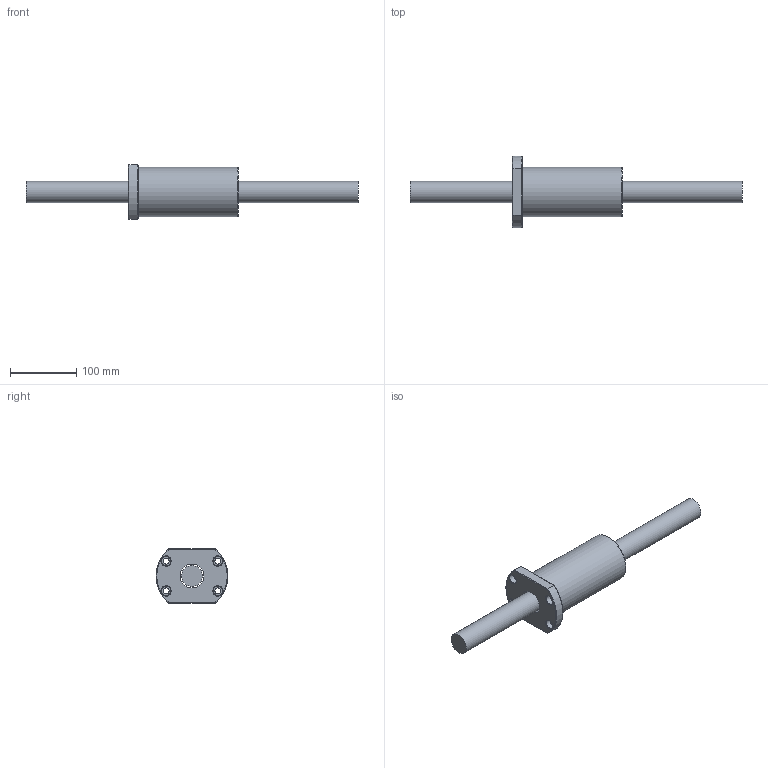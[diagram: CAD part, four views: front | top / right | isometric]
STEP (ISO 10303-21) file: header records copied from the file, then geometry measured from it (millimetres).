
FILE_DESCRIPTION (( 'STEP AP203' ), '1' );
FILE_NAME ('OFV03210D-4.8.step', '2024-05-20T06:09:56', ( '' ), ( '' ), 'SwSTEP 2.0', 'SolidWorks 2022', '' );
FILE_SCHEMA (( 'CONFIG_CONTROL_DESIGN' ));
Length unit declared in the file: millimetre
Products named in the file (1): OFV03210D-4.8
Bounding box: 500 x 108 x 82 mm (x, y, z)
Volume: 992221.4 mm3; surface area: 126294.2 mm2
Topology: 2 solids, 2 shells, 56 faces, 130 edges, 83 vertices
Faces by surface type: cylinder 21, plane 16, cone 9, torus 5, bspline 5
Full cylindrical faces by diameter (mm): 4 x1, 7 x6, 9 x4, 14 x4, 32 x1, 36.1 x1, 74 x1
Entity records: 3225 total; most frequent: CARTESIAN_POINT 2179, DIRECTION 190, ORIENTED_EDGE 166, EDGE_LOOP 90, AXIS2_PLACEMENT_3D 87, EDGE_CURVE 83, VERTEX_POINT 67, FACE_OUTER_BOUND 64
